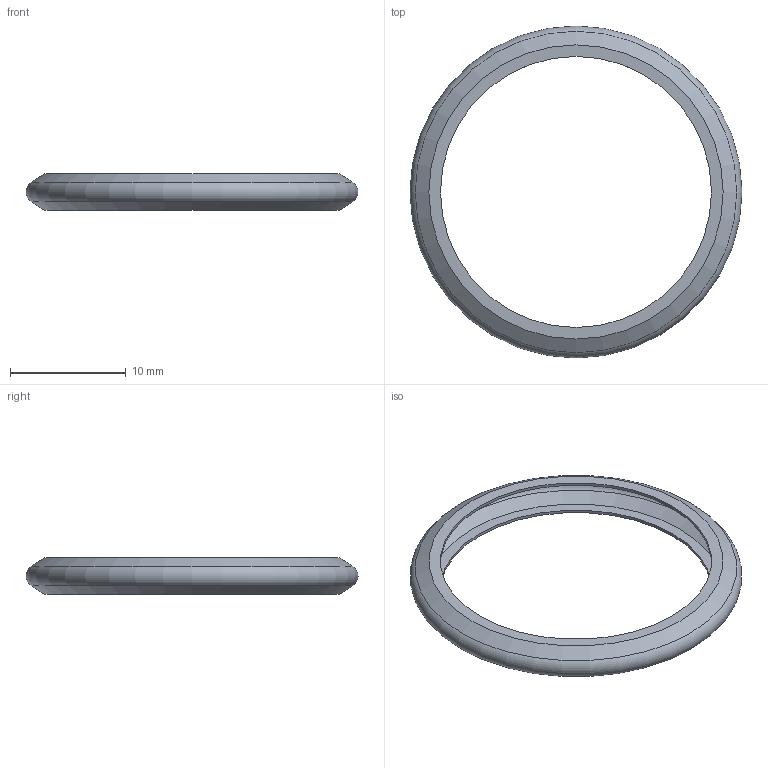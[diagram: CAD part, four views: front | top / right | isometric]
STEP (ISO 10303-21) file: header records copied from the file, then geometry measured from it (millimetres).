
FILE_DESCRIPTION(/* description */ (''),/* implementation_level */ '2;1');
FILE_NAME(/* name */ 'C:\Users\user\Documents\Inventor\Home Ventilator CPAP\Ring for hose.stp',/* time_stamp */ '2020-03-29T22:41:00+02:00',/* author */ ('user'),/* organization */ (''),/* preprocessor_version */ 'ST-DEVELOPER v16.5',/* originating_system */ 'Autodesk Inventor 2017',/* authorisation */ '');
FILE_SCHEMA (('AUTOMOTIVE_DESIGN { 1 0 10303 214 3 1 1 }'));
Length unit declared in the file: millimetre
Products named in the file (1): Ring for hose
Bounding box: 28.66 x 28.66 x 3.16 mm (x, y, z)
Volume: 131.5 mm3; surface area: 1088.8 mm2
Topology: 1 solids, 1 shells, 12 faces, 20 edges, 12 vertices
Faces by surface type: cone 4, plane 4, torus 2, cylinder 2
Full cylindrical faces by diameter (mm): 23.4 x1, 23.422 x1
Entity records: 297 total; most frequent: DIRECTION 50, CARTESIAN_POINT 37, AXIS2_PLACEMENT_3D 25, EDGE_LOOP 24, ORIENTED_EDGE 24, STYLED_ITEM 13, FACE_BOUND 12, FACE_OUTER_BOUND 12
